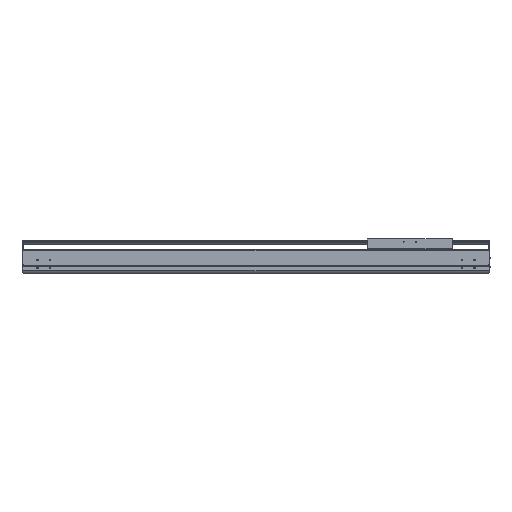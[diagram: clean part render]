
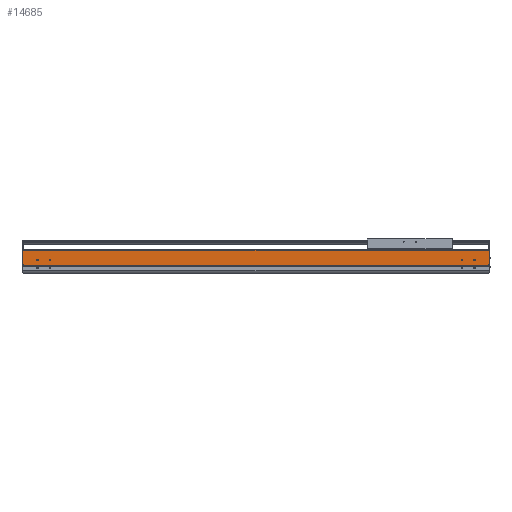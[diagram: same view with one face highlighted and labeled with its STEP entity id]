
A CAD part, top view. The second image highlights one B-rep face of the part: STEP entity #14685.
In plain terms, the highlighted planar face has unit normal (0, 0, 1).
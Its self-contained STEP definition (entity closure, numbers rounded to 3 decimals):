
#538=DIRECTION('',(0.,-1.,0.));
#539=VECTOR('',#538,2.55);
#540=CARTESIAN_POINT('',(0.,34.65,107.));
#541=LINE('',#540,#539);
#2187=DIRECTION('',(1.,0.,0.));
#2188=VECTOR('',#2187,2.);
#2189=CARTESIAN_POINT('',(0.,34.65,107.));
#2190=LINE('',#2189,#2188);
#2195=CARTESIAN_POINT('',(-59.5,54.,107.));
#2196=DIRECTION('',(0.,0.,-1.));
#2197=DIRECTION('',(1.,0.,0.));
#2198=AXIS2_PLACEMENT_3D('',#2195,#2196,#2197);
#2200=CARTESIAN_POINT('',(-59.5,54.,107.));
#2201=DIRECTION('',(0.,0.,-1.));
#2202=DIRECTION('',(-1.,0.,0.));
#2203=AXIS2_PLACEMENT_3D('',#2200,#2201,#2202);
#2205=CARTESIAN_POINT('',(-109.5,54.,107.));
#2206=DIRECTION('',(0.,0.,-1.));
#2207=DIRECTION('',(1.,0.,0.));
#2208=AXIS2_PLACEMENT_3D('',#2205,#2206,#2207);
#2210=CARTESIAN_POINT('',(-109.5,54.,107.));
#2211=DIRECTION('',(0.,0.,-1.));
#2212=DIRECTION('',(-1.,0.,0.));
#2213=AXIS2_PLACEMENT_3D('',#2210,#2211,#2212);
#2215=CARTESIAN_POINT('',(-1859.5,54.,107.));
#2216=DIRECTION('',(0.,0.,-1.));
#2217=DIRECTION('',(1.,0.,0.));
#2218=AXIS2_PLACEMENT_3D('',#2215,#2216,#2217);
#2220=CARTESIAN_POINT('',(-1859.5,54.,107.));
#2221=DIRECTION('',(0.,0.,-1.));
#2222=DIRECTION('',(-1.,0.,0.));
#2223=AXIS2_PLACEMENT_3D('',#2220,#2221,#2222);
#2225=CARTESIAN_POINT('',(-1809.5,54.,107.));
#2226=DIRECTION('',(0.,0.,-1.));
#2227=DIRECTION('',(1.,0.,0.));
#2228=AXIS2_PLACEMENT_3D('',#2225,#2226,#2227);
#2230=CARTESIAN_POINT('',(-1809.5,54.,107.));
#2231=DIRECTION('',(0.,0.,-1.));
#2232=DIRECTION('',(-1.,0.,0.));
#2233=AXIS2_PLACEMENT_3D('',#2230,#2231,#2232);
#2235=DIRECTION('',(0.,-1.,0.));
#2236=VECTOR('',#2235,2.55);
#2237=CARTESIAN_POINT('',(-1919.,34.65,107.));
#2238=LINE('',#2237,#2236);
#2239=DIRECTION('',(0.,-1.,0.));
#2240=VECTOR('',#2239,58.85);
#2241=CARTESIAN_POINT('',(-1921.,93.5,107.));
#2242=LINE('',#2241,#2240);
#2243=DIRECTION('',(0.,1.,0.));
#2244=VECTOR('',#2243,58.85);
#2245=CARTESIAN_POINT('',(2.,34.65,107.));
#2246=LINE('',#2245,#2244);
#2247=DIRECTION('',(1.,0.,0.));
#2248=VECTOR('',#2247,1919.);
#2249=CARTESIAN_POINT('',(-1919.,32.1,107.));
#2250=LINE('',#2249,#2248);
#2359=DIRECTION('',(1.,0.,0.));
#2360=VECTOR('',#2359,2.);
#2361=CARTESIAN_POINT('',(-1921.,34.65,107.));
#2362=LINE('',#2361,#2360);
#2371=DIRECTION('',(-1.,0.,0.));
#2372=VECTOR('',#2371,1923.);
#2373=CARTESIAN_POINT('',(2.,93.5,107.));
#2374=LINE('',#2373,#2372);
#9345=CARTESIAN_POINT('',(-1921.,34.65,107.));
#9346=VERTEX_POINT('',#9345);
#9347=CARTESIAN_POINT('',(-1921.,93.5,107.));
#9348=VERTEX_POINT('',#9347);
#9577=CARTESIAN_POINT('',(-1919.,32.1,107.));
#9578=VERTEX_POINT('',#9577);
#9917=CARTESIAN_POINT('',(0.,32.1,107.));
#9918=VERTEX_POINT('',#9917);
#9919=CARTESIAN_POINT('',(-57.,54.,107.));
#9920=CARTESIAN_POINT('',(-62.,54.,107.));
#9921=VERTEX_POINT('',#9919);
#9922=VERTEX_POINT('',#9920);
#9923=CARTESIAN_POINT('',(-107.,54.,107.));
#9924=CARTESIAN_POINT('',(-112.,54.,107.));
#9925=VERTEX_POINT('',#9923);
#9926=VERTEX_POINT('',#9924);
#9927=CARTESIAN_POINT('',(-1857.,54.,107.));
#9928=CARTESIAN_POINT('',(-1862.,54.,107.));
#9929=VERTEX_POINT('',#9927);
#9930=VERTEX_POINT('',#9928);
#9931=CARTESIAN_POINT('',(-1807.,54.,107.));
#9932=CARTESIAN_POINT('',(-1812.,54.,107.));
#9933=VERTEX_POINT('',#9931);
#9934=VERTEX_POINT('',#9932);
#10810=CARTESIAN_POINT('',(2.,34.65,107.));
#10811=VERTEX_POINT('',#10810);
#10812=CARTESIAN_POINT('',(2.,93.5,107.));
#10813=VERTEX_POINT('',#10812);
#11264=CARTESIAN_POINT('',(0.,34.65,107.));
#11265=VERTEX_POINT('',#11264);
#11344=CARTESIAN_POINT('',(-1919.,34.65,107.));
#11345=VERTEX_POINT('',#11344);
#14643=CARTESIAN_POINT('',(-959.5,62.8,107.));
#14644=DIRECTION('',(0.,0.,1.));
#14645=DIRECTION('',(0.,-1.,0.));
#14646=AXIS2_PLACEMENT_3D('',#14643,#14644,#14645);
#14647=PLANE('',#14646);
#14648=ORIENTED_EDGE('',*,*,#12144,.F.);
#14650=ORIENTED_EDGE('',*,*,#14649,.F.);
#14651=ORIENTED_EDGE('',*,*,#13241,.F.);
#14653=ORIENTED_EDGE('',*,*,#14652,.F.);
#14654=ORIENTED_EDGE('',*,*,#14441,.F.);
#14655=ORIENTED_EDGE('',*,*,#14636,.F.);
#14656=ORIENTED_EDGE('',*,*,#12759,.T.);
#14658=ORIENTED_EDGE('',*,*,#14657,.F.);
#14659=EDGE_LOOP('',(#14648,#14650,#14651,#14653,#14654,#14655,#14656,#14658));
#14660=FACE_OUTER_BOUND('',#14659,.F.);
#14662=ORIENTED_EDGE('',*,*,#14661,.F.);
#14664=ORIENTED_EDGE('',*,*,#14663,.F.);
#14665=EDGE_LOOP('',(#14662,#14664));
#14666=FACE_BOUND('',#14665,.F.);
#14668=ORIENTED_EDGE('',*,*,#14667,.F.);
#14670=ORIENTED_EDGE('',*,*,#14669,.F.);
#14671=EDGE_LOOP('',(#14668,#14670));
#14672=FACE_BOUND('',#14671,.F.);
#14674=ORIENTED_EDGE('',*,*,#14673,.F.);
#14676=ORIENTED_EDGE('',*,*,#14675,.F.);
#14677=EDGE_LOOP('',(#14674,#14676));
#14678=FACE_BOUND('',#14677,.F.);
#14680=ORIENTED_EDGE('',*,*,#14679,.F.);
#14682=ORIENTED_EDGE('',*,*,#14681,.F.);
#14683=EDGE_LOOP('',(#14680,#14682));
#14684=FACE_BOUND('',#14683,.F.);
#14685=ADVANCED_FACE('',(#14660,#14666,#14672,#14678,#14684),#14647,.T.);
#2199=CIRCLE('',#2198,2.5);
#2204=CIRCLE('',#2203,2.5);
#2209=CIRCLE('',#2208,2.5);
#2214=CIRCLE('',#2213,2.5);
#2219=CIRCLE('',#2218,2.5);
#2224=CIRCLE('',#2223,2.5);
#2229=CIRCLE('',#2228,2.5);
#2234=CIRCLE('',#2233,2.5);
#12144=EDGE_CURVE('',#11345,#9578,#2238,.T.);
#12759=EDGE_CURVE('',#11265,#9918,#541,.T.);
#13241=EDGE_CURVE('',#9348,#9346,#2242,.T.);
#14441=EDGE_CURVE('',#10811,#10813,#2246,.T.);
#14636=EDGE_CURVE('',#11265,#10811,#2190,.T.);
#14649=EDGE_CURVE('',#9346,#11345,#2362,.T.);
#14652=EDGE_CURVE('',#10813,#9348,#2374,.T.);
#14657=EDGE_CURVE('',#9578,#9918,#2250,.T.);
#14661=EDGE_CURVE('',#9925,#9926,#2209,.T.);
#14663=EDGE_CURVE('',#9926,#9925,#2214,.T.);
#14667=EDGE_CURVE('',#9929,#9930,#2219,.T.);
#14669=EDGE_CURVE('',#9930,#9929,#2224,.T.);
#14673=EDGE_CURVE('',#9933,#9934,#2229,.T.);
#14675=EDGE_CURVE('',#9934,#9933,#2234,.T.);
#14679=EDGE_CURVE('',#9921,#9922,#2199,.T.);
#14681=EDGE_CURVE('',#9922,#9921,#2204,.T.);
